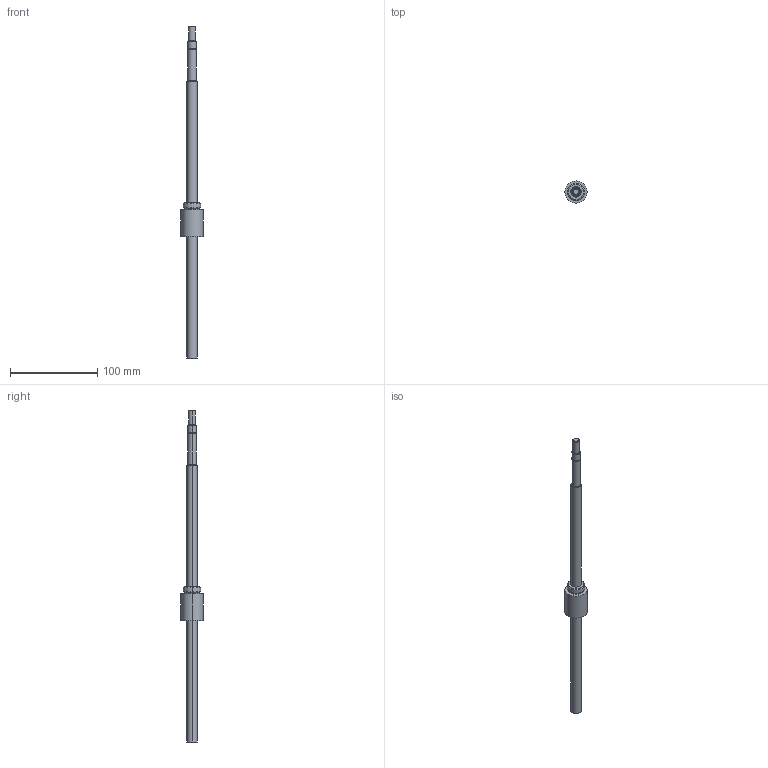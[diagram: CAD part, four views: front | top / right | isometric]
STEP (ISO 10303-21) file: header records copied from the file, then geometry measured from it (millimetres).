
FILE_DESCRIPTION (( 'STEP AP203' ), '1' );
FILE_NAME ('H173af0d1-bc7a-4a1f-ba1f-7344ae62a2fa.step', '2023-12-06T18:53:29', ( 'dsemanik' ), ( 'Microsoft' ), 'SwSTEP 2.0', 'SolidWorks 2015', '' );
FILE_SCHEMA (( 'CONFIG_CONTROL_DESIGN' ));
Length unit declared in the file: inch
Products named in the file (6): EndMachining_10-3K; EndCode1_10-3K; Nut_MBN11112; H173af0d1-bc7a-4a1f-ba1f-7344ae62a2fa; Screw_MRT 12x2.5 RA; BasePoint
Assembly tree (4 placements, depth 3):
  H173af0d1-bc7a-4a1f-ba1f-7344ae62a2fa
    Screw_MRT 12x2.5 RA
    EndCode1_10-3K
      EndMachining_10-3K
    Nut_MBN11112
  BasePoint
Bounding box: 25.5 x 25.5 x 381.5 mm (x, y, z)
Volume: 52657.9 mm3; surface area: 19330.5 mm2
Topology: 3 solids, 3 shells, 43 faces, 88 edges, 54 vertices
Faces by surface type: cylinder 18, cone 13, plane 12
Entity records: 1777 total; most frequent: DIRECTION 232, CARTESIAN_POINT 227, ORIENTED_EDGE 176, AXIS2_PLACEMENT_3D 97, EDGE_CURVE 88, VERTEX_POINT 54, PERSON_AND_ORGANIZATION 52, EDGE_LOOP 48
